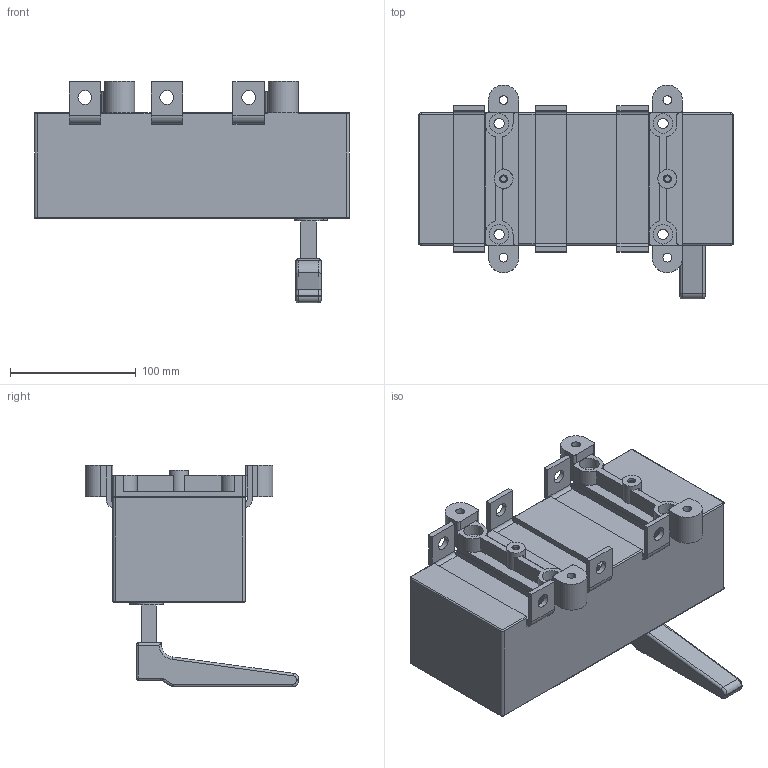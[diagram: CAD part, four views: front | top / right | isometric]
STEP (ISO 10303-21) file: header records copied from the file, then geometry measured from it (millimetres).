
FILE_DESCRIPTION(/* description */ (''),/* implementation_level */ '2;1');
FILE_NAME(/* name */ 'RA400 P3 C-R.stp',/* time_stamp */ '2021-08-18T14:30:14+02:00',/* author */ (''),/* organization */ (''),/* preprocessor_version */ 'ST-DEVELOPER v18.1',/* originating_system */ 'SIEMENS PLM Software NX 1965',/* authorisation */ '');
FILE_SCHEMA (('AUTOMOTIVE_DESIGN { 1 0 10303 214 3 1 1 1 }'));
Length unit declared in the file: millimetre
Products named in the file (1): RA400 P3 C-R_stp
Bounding box: 250 x 169.5 x 176 mm (x, y, z)
Volume: 2300083.9 mm3; surface area: 170328.6 mm2
Topology: 1 solids, 1 shells, 264 faces, 681 edges, 428 vertices
Faces by surface type: plane 123, cylinder 119, torus 11, sphere 6, bspline 5
Full cylindrical faces by diameter (mm): 4.8 x2, 6.2 x2, 7 x4, 8.2 x4, 11 x6, 14 x4, 15 x2, 15.5 x4
Entity records: 7984 total; most frequent: CARTESIAN_POINT 1439, DIRECTION 1429, ORIENTED_EDGE 1286, EDGE_CURVE 643, AXIS2_PLACEMENT_3D 530, VERTEX_POINT 424, LINE 369, VECTOR 369
